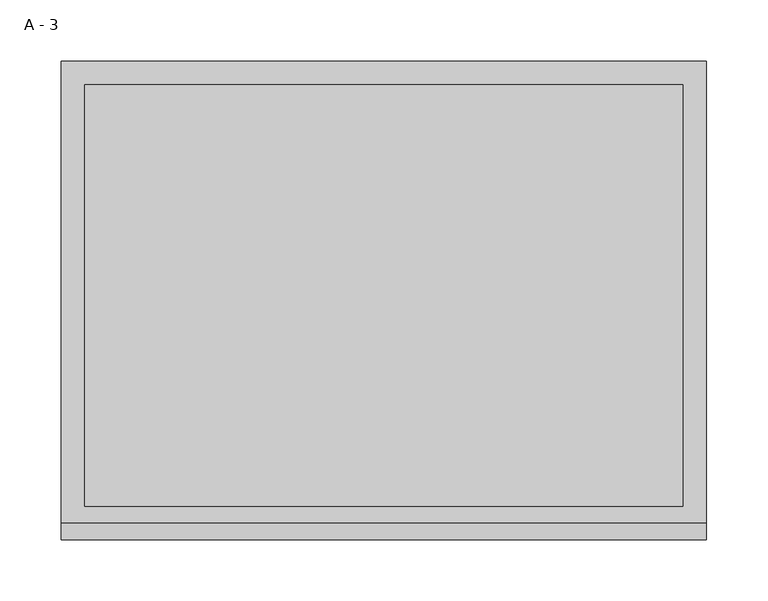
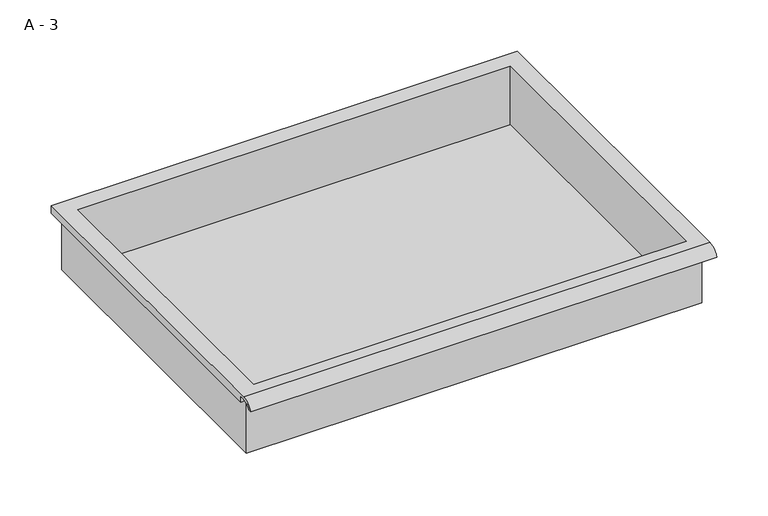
"""IFC4 building model written with IfcOpenShell, lengths in millimetres: furniture geometry, HermanMiller_CoStruc_CO207_Drawer : A - 3."""

from ifc_helpers import new_model, si_unit, frame, origin, place, context, project, spatial, polyline, circle_curve, source, transform, mapped, element, save
from ifc_brep_helpers import plane_surface, cylinder_surface, revolved_surface, advanced_brep


def a_3_959e08d9(model_context):
    return source(origin(), model_context, "Body", "AdvancedBrep", [
        advanced_brep(
        [(-257.1076517, -176.2125, 731.8502), (257.2423483, -176.2125, 731.8502), (257.2423483, -176.2125, 795.3502), (263.5923483, -176.2125, 795.3502), (263.5923483, -176.2125, 801.6573341), (-263.4576517, -176.2125, 801.6573341), (-263.4576517, -176.2125, 795.3502), (-257.1076517, -176.2125, 795.3502), (257.2423483, 185.7375, 731.8502), (-257.1076517, 185.7375, 731.8502), (-257.1076517, 185.7375, 795.3502), (257.2423483, 185.7375, 795.3502), (263.5923483, -181.6070544, 804.8752), (263.5923483, 195.2625, 804.8752), (-263.4576517, 195.2625, 804.8752), (-263.4576517, -181.6070544, 804.8752), (244.5423483, -168.275, 804.8752), (-244.4076517, -168.275, 804.8752), (-244.4076517, 176.2125, 804.8752), (244.5423483, 176.2125, 804.8752), (263.5923483, -195.2625, 795.3502), (263.5923483, -191.8280601, 795.3502), (263.5923483, -180.4714815, 801.6573341), (263.5923483, 195.2625, 795.3502), (-263.4576517, 195.2625, 795.3502), (-263.4576517, -180.4714815, 801.6573341), (-263.4576517, -191.8280601, 795.3502), (-263.4576517, -195.2625, 795.3502), (-244.4076517, -168.275, 734.8763719), (244.5423483, -168.275, 734.8763719), (244.5423483, 176.2125, 734.8763719), (-244.4076517, 176.2125, 734.8763719)],
        [
            (0, 1),
            (1, 2),
            (2, 3),
            (3, 4),
            (4, 5),
            (5, 6),
            (6, 7),
            (7, 0),
            (8, 9),
            (9, 10),
            (10, 11),
            (11, 8),
            (0, 9),
            (8, 1),
            (11, 2),
            (12, 13),
            (13, 14),
            (14, 15),
            (15, 12),
            (16, 17),
            (17, 18),
            (18, 19),
            (19, 16),
            (7, 10),
            (12, 20, circle_curve(frame((263.5923483, -181.6070544, 790.3241859), z_axis=(1.0, 0.0, 0.0), x_axis=(0.0, 1.0, 0.0)), 14.5510141)),
            (20, 21),
            (21, 22, circle_curve(frame((263.5923483, -181.6070544, 790.3241859), z_axis=(-1.0, 0.0, 0.0), x_axis=(0.0, 1.0, 0.0)), 11.3898979)),
            (22, 4),
            (3, 23),
            (23, 13),
            (14, 24),
            (24, 6),
            (5, 25),
            (25, 26, circle_curve(frame((-263.4576517, -181.6070544, 790.3241859), z_axis=(1.0, 0.0, 0.0), x_axis=(0.0, 1.0, 0.0)), 11.3898979)),
            (26, 27),
            (27, 15, circle_curve(frame((-263.4576517, -181.6070544, 790.3241859), z_axis=(-1.0, 0.0, 0.0), x_axis=(0.0, 1.0, 0.0)), 14.5510141)),
            (27, 20),
            (26, 21),
            (25, 22),
            (24, 23),
            (28, 29),
            (29, 30),
            (30, 31),
            (31, 28),
            (28, 17),
            (16, 29),
            (19, 30),
            (18, 31),
        ],
        [
            plane_surface(frame((257.2423483, -176.2125, 731.8502), z_axis=(0.0, -1.0, 0.0), x_axis=(1.0, 0.0, 0.0))),
            plane_surface(frame((257.2423483, 185.7375, 731.8502), z_axis=(0.0, 1.0, 0.0), x_axis=(-1.0, 0.0, 0.0))),
            plane_surface(frame((-257.1076517, -176.2125, 731.8502), z_axis=(0.0, 0.0, -1.0), x_axis=(0.0, 1.0, 0.0))),
            plane_surface(frame((257.2423483, -176.2125, 731.8502), z_axis=(1.0, 0.0, 0.0), x_axis=(0.0, 1.0, 0.0))),
            plane_surface(frame((257.2423483, -176.2125, 804.8752), z_axis=(0.0, 0.0, 1.0), x_axis=(0.0, 1.0, 0.0))),
            plane_surface(frame((-257.1076517, -176.2125, 804.8752), z_axis=(-1.0, 0.0, 0.0), x_axis=(0.0, 1.0, 0.0))),
            plane_surface(frame((263.5923483, 195.2625, 804.8752), z_axis=(1.0, 0.0, 0.0), x_axis=(0.0, -1.0, 0.0))),
            plane_surface(frame((-263.4576517, 195.2625, 804.8752), z_axis=(-1.0, 0.0, 0.0), x_axis=(0.0, 1.0, 0.0))),
            cylinder_surface(frame((-263.4576517, -181.6070544, 790.3241859), z_axis=(1.0, 0.0, 0.0), x_axis=(0.0, 1.0, 0.0)), 14.5510141),
            plane_surface(frame((263.5923483, -195.2625, 795.3502), z_axis=(0.0, -7.291233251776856e-12, -1.0), x_axis=(-1.0, 0.0, 0.0))),
            revolved_surface(polyline([(-263.4576517, -170.21715650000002, 790.3241859), (263.59234829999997, -170.21715650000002, 790.3241859)]), (-263.4576517, -181.6070544, 790.3241859), (-1.0, 0.0, 0.0)),
            plane_surface(frame((263.5923483, -180.4714815, 801.6573341), z_axis=(0.0, -1.805210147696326e-11, -1.0), x_axis=(-1.0, 0.0, 0.0))),
            plane_surface(frame((263.5923483, -176.2125, 795.3502), z_axis=(0.0, 0.0, -1.0), x_axis=(-1.0, 0.0, 0.0))),
            plane_surface(frame((263.5923483, 195.2625, 795.3502), z_axis=(0.0, 1.0, 0.0), x_axis=(-1.0, 0.0, 0.0))),
            plane_surface(frame((244.5423483, -168.275, 734.8763719), z_axis=(0.0, 0.0, 1.0), x_axis=(-1.0, 0.0, 0.0))),
            plane_surface(frame((-244.4076517, -168.275, 804.8752), z_axis=(0.0, 1.0, 0.0), x_axis=(0.0, 0.0, -1.0))),
            plane_surface(frame((244.5423483, -168.275, 804.8752), z_axis=(-1.0, 0.0, 0.0), x_axis=(0.0, 0.0, -1.0))),
            plane_surface(frame((244.5423483, 176.2125, 804.8752), z_axis=(0.0, -1.0, 0.0), x_axis=(0.0, 0.0, -1.0))),
            plane_surface(frame((-244.4076517, 176.2125, 804.8752), z_axis=(1.0, 0.0, 0.0), x_axis=(0.0, 0.0, -1.0))),
        ],
        [
            (0, [[1, 2, 3, 4, 5, 6, 7, 8]]),
            (1, [[9, 10, 11, 12]]),
            (2, [[-1, 13, -9, 14]]),
            (3, [[-14, -12, 15, -2]]),
            (4, [[16, 17, 18, 19], [20, 21, 22, 23]]),
            (5, [[-13, -8, 24, -10]]),
            (6, [[-16, 25, 26, 27, 28, -4, 29, 30]]),
            (7, [[31, 32, -6, 33, 34, 35, 36, -18]]),
            (8, [[-25, -19, -36, 37]]),
            (9, [[-26, -37, -35, 38]]),
            (10, [[-27, -38, -34, 39]]),
            (11, [[-28, -39, -33, -5]]),
            (12, [[-29, -3, -15, -11, -24, -7, -32, 40]]),
            (13, [[-30, -40, -31, -17]]),
            (14, [[41, 42, 43, 44]]),
            (15, [[-41, 45, -20, 46]]),
            (16, [[-42, -46, -23, 47]]),
            (17, [[-43, -47, -22, 48]]),
            (18, [[-44, -48, -21, -45]]),
        ],
    ),
    ])


if __name__ == "__main__":
    model = new_model("IFC4")
    model_context = context("Model", 3, world=origin())
    ifc_project = project(units=[si_unit("LENGTHUNIT", "METRE", prefix="MILLI")], contexts=[model_context])
    site = spatial("IfcSite", under=ifc_project)
    building = spatial("IfcBuilding", under=site)
    placement = place(None, origin())
    a_3_shape = a_3_959e08d9(model_context)
    element("IfcFurniture", 1, ObjectType="HermanMiller_CoStruc_CO207_Drawer : A - 3", at=placement, inside=building, context=model_context, shape_type="MappedRepresentation", body=[
        mapped(a_3_shape, transform((0.0, 0.0, 0.0), x_axis=(1.0, 0.0, 0.0), y_axis=(0.0, 1.0, 0.0), z_axis=(0.0, 0.0, 1.0))),
    ])
    save(model, "model.ifc")
